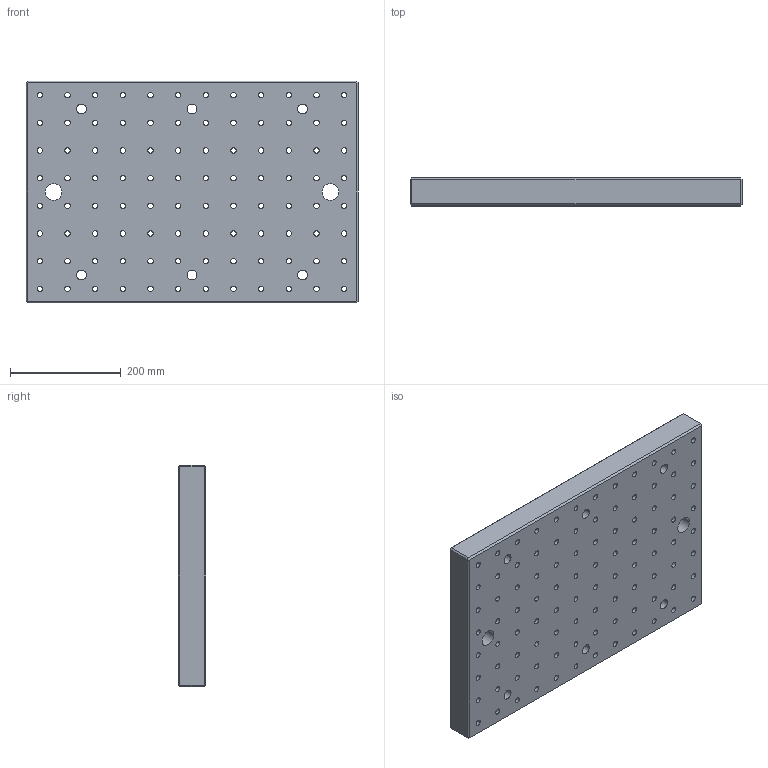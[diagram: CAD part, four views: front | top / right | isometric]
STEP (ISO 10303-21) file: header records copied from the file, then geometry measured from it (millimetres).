
FILE_DESCRIPTION((''),'2;1');
FILE_NAME('FG_WH_BASPL_RCGRDNP001','2026-05-19T09:44:40',('Admin'),(''),'CREO PARAMETRIC BY PTC INC, 2025010','CREO PARAMETRIC BY PTC INC, 2025010','');
FILE_SCHEMA(('CONFIG_CONTROL_DESIGN'));
Length unit declared in the file: millimetre
Products named in the file (1): FG_WH_BASPL_RCGRDNP001
Bounding box: 600 x 50 x 400 mm (x, y, z)
Volume: 11379584.3 mm3; surface area: 831992.2 mm2
Topology: 1 solids, 97 shells, 828 faces, 2060 edges, 1432 vertices
Faces by surface type: cylinder 604, plane 224
Entity records: 25887 total; most frequent: DIRECTION 5118, CARTESIAN_POINT 4321, ORIENTED_EDGE 3736, AXIS2_PLACEMENT_3D 2229, EDGE_CURVE 2060, VERTEX_POINT 1432, CIRCLE 1400, EDGE_LOOP 1234
